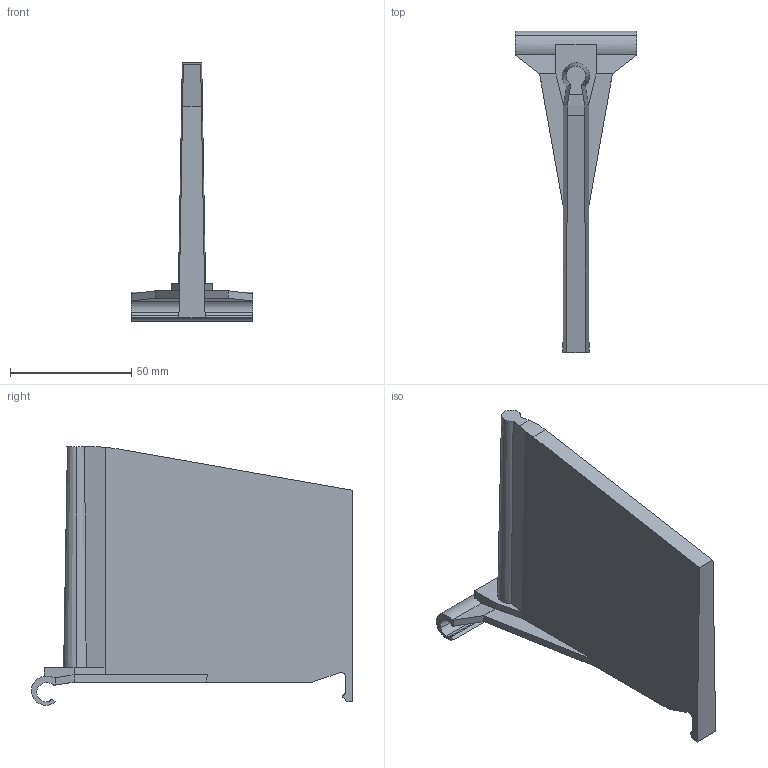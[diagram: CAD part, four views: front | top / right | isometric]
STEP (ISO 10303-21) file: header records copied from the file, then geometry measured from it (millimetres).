
FILE_DESCRIPTION (( 'STEP AP214' ), '1' );
FILE_NAME ('Magic Optima Smart Board.STEP', '2010-08-17T12:24:28', ( 'grass' ), ( '' ), 'SwSTEP 2.0', 'SolidWorks 2010', '' );
FILE_SCHEMA (( 'AUTOMOTIVE_DESIGN' ));
Length unit declared in the file: millimetre
Products named in the file (1): Magic Optima Smart Board
Bounding box: 50 x 132.4 x 106.55 mm (x, y, z)
Volume: 44698.6 mm3; surface area: 50145.4 mm2
Topology: 1 solids, 1 shells, 75 faces, 211 edges, 138 vertices
Faces by surface type: plane 48, cylinder 21, cone 6
Entity records: 2440 total; most frequent: CARTESIAN_POINT 522, ORIENTED_EDGE 422, DIRECTION 369, EDGE_CURVE 211, LINE 143, VECTOR 143, VERTEX_POINT 138, AXIS2_PLACEMENT_3D 113
